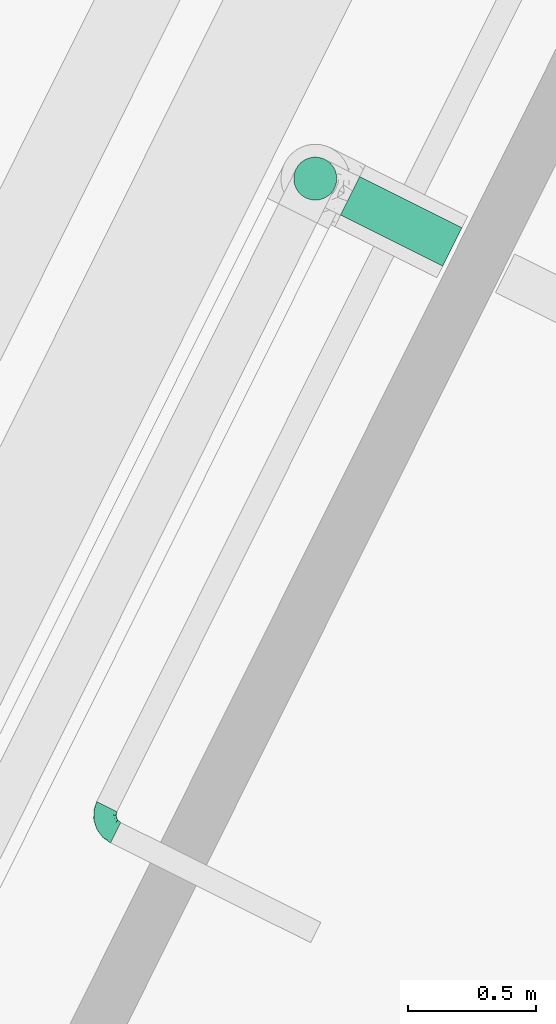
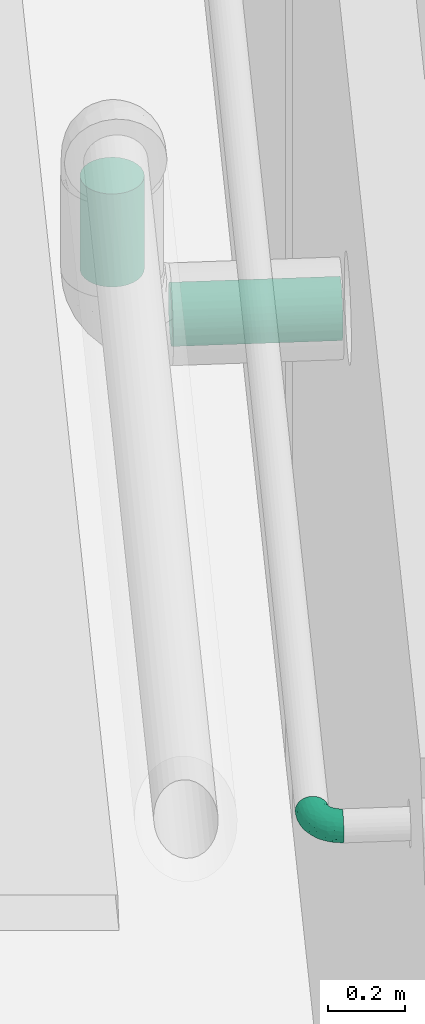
# One storey, part 78 of 91: 2 flow segments, 1 flow fitting.
"""IFC2X3 building model written with IfcOpenShell, lengths in metres."""

from ifc_helpers import new_model, entity, si_unit, converted_unit, derived_unit, direction, frame, frame_2d, origin, place, context, subcontext, project, spatial, circle, extrude, faceted_brep, source, transform, mapped, type_object, type_shapes, element, save


model = new_model("IFC2X3")

# Units and contexts
model_context = context("Model", 3, precision=1e-05, world=origin(), true_north=direction((0.894925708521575, 0.446215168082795)))
context_of_model = context(None, 3, precision=1e-05, world=origin(), true_north=direction((0.894925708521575, 0.446215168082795)))
body_context = subcontext(model_context, "Body", "Model", "MODEL_VIEW")
ifc_project = project(units=[si_unit("LENGTHUNIT", "METRE"), si_unit("AREAUNIT", "SQUARE_METRE"), si_unit("VOLUMEUNIT", "CUBIC_METRE"), converted_unit("PLANEANGLEUNIT", "DEGREE", entity("IfcRatioMeasure", 0.0174532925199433), si_unit("PLANEANGLEUNIT", "RADIAN"), dimensions=[0, 0, 0, 0, 0, 0, 0]), si_unit("MASSUNIT", "GRAM", prefix="KILO"), si_unit("TIMEUNIT", "SECOND"), si_unit("FREQUENCYUNIT", "HERTZ"), si_unit("THERMODYNAMICTEMPERATUREUNIT", "DEGREE_CELSIUS"), derived_unit("THERMALTRANSMITTANCEUNIT", [(si_unit("MASSUNIT", "GRAM", prefix="KILO"), 1), (si_unit("THERMODYNAMICTEMPERATUREUNIT", "KELVIN"), -1), (si_unit("TIMEUNIT", "SECOND"), -3)]), derived_unit("VOLUMETRICFLOWRATEUNIT", [(si_unit("LENGTHUNIT", "METRE"), 3), (si_unit("TIMEUNIT", "SECOND"), -1)]), si_unit("ELECTRICCURRENTUNIT", "AMPERE"), si_unit("ELECTRICVOLTAGEUNIT", "VOLT"), si_unit("POWERUNIT", "WATT"), si_unit("FORCEUNIT", "NEWTON", prefix="KILO"), si_unit("ILLUMINANCEUNIT", "LUX"), si_unit("LUMINOUSFLUXUNIT", "LUMEN"), si_unit("LUMINOUSINTENSITYUNIT", "CANDELA"), si_unit("PRESSUREUNIT", "PASCAL")], contexts=[model_context, context_of_model])

# Site, building, storey
site_placement = place(None, frame((218.228324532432, 584.720189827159, 0.0), z_axis=(0.0, 0.0, 1.0), x_axis=(0.446215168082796, 0.894925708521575, 0.0)))
site = spatial("IfcSite", under=ifc_project, at=site_placement, Name="Default", CompositionType="ELEMENT")
building_placement = place(site_placement, origin())
building = spatial("IfcBuilding", under=site, at=building_placement, CompositionType="ELEMENT")
storey_placement = place(building_placement, origin())
storey = spatial("IfcBuildingStorey", under=building, at=storey_placement, Name="0 - Piano Terra", CompositionType="ELEMENT", Elevation=0.0)

# Flow segments
pipe_segment_type = type_object("IfcPipeSegmentType", Name="Tubazione:Riscaldamento-Tubazione", PredefinedType="NOTDEFINED")
flow_segment_1_placement = place(storey_placement, frame((0.571569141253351, -4.98336339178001, 3.21426722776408)))
element("IfcFlowSegment", 1, at=flow_segment_1_placement, inside=storey, type_object=pipe_segment_type, Name="Tubazione:Riscaldamento-Tubazione", ObjectType="Tubazione:Riscaldamento-Tubazione", context=body_context, shape_type="SweptSolid", body=[
    extrude(circle(Radius=0.0841375, at=frame_2d((1.35358391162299e-16, 0.0), x_axis=(1.0, 0.0))), frame((0.0857327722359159, 0.0, 0.0857327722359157), z_axis=(0.0, 1.0, 0.0), x_axis=(1.0, 0.0, 0.0)), (0.0, 0.0, 1.0), 0.446146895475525),
])
flow_segment_2_placement = place(storey_placement, frame((0.571569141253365, -4.47094926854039, 3.452)))
element("IfcFlowSegment", 2, at=flow_segment_2_placement, inside=storey, type_object=pipe_segment_type, Name="Tubazione:Riscaldamento-Tubazione", ObjectType="Tubazione:Riscaldamento-Tubazione", context=body_context, shape_type="SweptSolid", body=[
    extrude(circle(Radius=0.0841375, at=frame_2d((1.35358391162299e-16, -5.41433564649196e-16), x_axis=(1.0, 0.0))), frame((0.0857327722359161, 0.0857327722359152, 0.0), z_axis=(0.0, 0.0, 1.0), x_axis=(-1.0, 0.0, 0.0)), (0.0, 0.0, 1.0), 0.295999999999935),
])

# Flow fitting
pipe_fitting_type = type_object("IfcPipeFittingType", Name="Standard", PredefinedType="NOTDEFINED")
shared_shape = source(origin(), body_context, "Body", "Brep", [
    faceted_brep([(-0.0759999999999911, 0.0222249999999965, -0.0384948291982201), (-0.0759999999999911, 0.0115045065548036, -0.0429354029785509), (-0.0759999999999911, 0.0, -0.0444500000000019), (-0.0759999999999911, -0.0115045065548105, -0.042935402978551), (-0.075999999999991, -0.0222250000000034, -0.0384948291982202), (-0.075999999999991, -0.0314308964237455, -0.031430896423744), (-0.075999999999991, -0.0384948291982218, -0.022225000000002), (-0.075999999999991, -0.0429354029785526, -0.011504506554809), (-0.075999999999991, -0.0444500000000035, 0.0), (-0.075999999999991, -0.0429354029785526, 0.011504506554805), (-0.075999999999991, -0.0384948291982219, 0.022224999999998), (-0.075999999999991, -0.0314308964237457, 0.0314308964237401), (-0.075999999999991, -0.0222250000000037, 0.0384948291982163), (-0.0759999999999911, -0.0115045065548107, 0.0429354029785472), (-0.0759999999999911, 0.0, 0.0444499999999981), (-0.0759999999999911, 0.0115045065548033, 0.0429354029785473), (-0.0759999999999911, 0.0222249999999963, 0.0384948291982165), (-0.0759999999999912, 0.0314308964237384, 0.0314308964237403), (-0.0759999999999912, 0.0384948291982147, 0.0222249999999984), (-0.0759999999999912, 0.0429354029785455, 0.0115045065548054), (-0.0759999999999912, 0.0444499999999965, 0.0), (-0.0759999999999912, 0.0429354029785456, -0.0115045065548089), (-0.0759999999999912, 0.0384948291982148, -0.0222250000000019), (-0.0759999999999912, 0.0314308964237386, -0.0314308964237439), (0.0, 0.0759999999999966, -0.0444500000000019), (-0.0115045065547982, 0.0759999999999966, -0.0429354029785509), (-0.0222249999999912, 0.0759999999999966, -0.0384948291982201), (-0.0314308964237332, 0.0759999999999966, -0.0314308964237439), (-0.0384948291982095, 0.0759999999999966, -0.0222250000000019), (-0.0429354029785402, 0.0759999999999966, -0.0115045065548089), (-0.0444499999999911, 0.0759999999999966, 0.0), (-0.0429354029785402, 0.0759999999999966, 0.0115045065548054), (-0.0384948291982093, 0.0759999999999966, 0.0222249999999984), (-0.031430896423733, 0.0759999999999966, 0.0314308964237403), (-0.0222249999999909, 0.0759999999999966, 0.0384948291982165), (-0.011504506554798, 0.0759999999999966, 0.0429354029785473), (0.0, 0.0759999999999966, 0.0444499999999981), (0.0115045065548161, 0.0759999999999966, 0.0429354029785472), (0.022225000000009, 0.0759999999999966, 0.0384948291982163), (0.031430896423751, 0.0759999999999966, 0.0314308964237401), (0.0384948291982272, 0.0759999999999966, 0.022224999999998), (0.042935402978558, 0.0759999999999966, 0.011504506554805), (0.0444500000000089, 0.0759999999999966, 0.0), (0.0429354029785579, 0.0759999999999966, -0.011504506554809), (0.0384948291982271, 0.0759999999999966, -0.022225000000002), (0.0314308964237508, 0.0759999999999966, -0.031430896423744), (0.0222250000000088, 0.0759999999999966, -0.0384948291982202), (0.0115045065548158, 0.0759999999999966, -0.042935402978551), (-0.055251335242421, -0.0350999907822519, 0.0246019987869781), (-0.0387789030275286, -0.0385547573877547, 0.0), (-0.0513960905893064, -0.0397481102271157, 0.0135506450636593), (-0.0541387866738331, -0.0409875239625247, 0.0), (0.0164280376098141, 0.018681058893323, 0.0300447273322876), (0.0133440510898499, 0.00595972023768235, 0.0238254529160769), (0.0227502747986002, 0.0181678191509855, 0.0223222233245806), (-0.0566160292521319, 0.00529376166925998, 0.0443688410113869), (-0.0518504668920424, 0.0178853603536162, 0.0424858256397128), (-0.0658426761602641, 0.0162370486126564, 0.0417044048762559), (0.00670599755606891, 0.0058076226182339, 0.0303487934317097), (0.00217280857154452, -0.00488037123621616, 0.0253915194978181), (0.0217662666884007, 0.0334721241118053, 0.0322256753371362), (0.0133779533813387, 0.0277507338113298, 0.0363591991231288), (-0.0489098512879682, -0.0265635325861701, 0.0327252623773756), (-0.0551815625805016, -0.0175181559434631, 0.0397928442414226), (-0.0321967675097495, -0.0350744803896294, 0.0096061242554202), (-0.0219900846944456, -0.0300004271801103, 0.0), (-0.0380359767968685, 0.0129504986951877, 0.0443849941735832), (-0.0499161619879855, 0.0304962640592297, 0.0376985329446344), (-0.0641975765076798, 0.0266916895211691, 0.0365481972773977), (-0.0267918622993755, 0.0407735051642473, 0.0416664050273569), (-0.0178853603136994, 0.0518504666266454, 0.0424858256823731), (-0.0304962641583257, 0.0499161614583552, 0.0376985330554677), (-0.0162370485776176, 0.0658426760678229, 0.0417044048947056), (-0.00529376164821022, 0.0566160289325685, 0.0443688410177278), (-0.060002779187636, 0.0363683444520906, 0.0294868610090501), (-0.0571942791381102, -0.00652591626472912, 0.0436019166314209), (-0.0131742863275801, -0.0091104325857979, 0.0329931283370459), (-0.0104548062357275, -0.0146502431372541, 0.0262592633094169), (-0.0363683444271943, 0.060002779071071, 0.0294868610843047), (-0.0266916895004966, 0.0641975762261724, 0.036548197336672), (-0.0591167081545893, 0.0427163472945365, 0.0219026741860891), (-0.0130572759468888, 0.0374829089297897, 0.0443951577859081), (-0.0283996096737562, 0.02839960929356, 0.0435936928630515), (-0.0206947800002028, 0.0157137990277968, 0.0440684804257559), (-0.0622162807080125, 0.0455810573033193, 0.0126773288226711), (-0.0512634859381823, 0.0512634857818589, 0.0171284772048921), (-0.0440264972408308, 0.0440264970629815, 0.032066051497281), (-0.0427163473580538, 0.0591167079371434, 0.0219026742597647), (-0.0484175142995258, 0.0479614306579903, 0.0251239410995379), (0.0175181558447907, 0.0551815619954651, 0.0397928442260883), (0.0265635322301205, 0.0489098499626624, 0.0327252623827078), (-0.0531667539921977, 0.0531667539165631, 0.00808290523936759), (0.0397481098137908, 0.0513960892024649, 0.0135506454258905), (0.0350999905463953, 0.0552513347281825, 0.0246019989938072), (0.0300990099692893, 0.0319822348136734, 0.0215664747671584), (0.00652591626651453, 0.0571942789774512, 0.0436019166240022), (-0.0360375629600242, -0.00228367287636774, 0.0428291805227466), (0.0409875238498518, 0.0541387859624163, 0.0), (-0.00769711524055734, 0.023069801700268, 0.0432135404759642), (-0.0161281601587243, 0.00441100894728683, 0.0409345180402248), (-0.000438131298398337, 0.0181073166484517, 0.0400941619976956), (0.0300004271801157, 0.0219900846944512, 0.0), (0.0350744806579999, 0.0321967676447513, 0.00960612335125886), (0.0263186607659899, 0.0155052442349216, 0.0117666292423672), (-0.0291179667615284, -0.0225220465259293, 0.0296592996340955), (-0.0277507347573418, -0.0133779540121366, 0.0363591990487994), (-0.0602249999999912, 0.0486768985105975, 0.0), (-0.0486768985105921, 0.0602249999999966, 0.0), (-0.0455810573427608, 0.0622162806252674, 0.0126773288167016), (-0.0407466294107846, 0.0268307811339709, 0.0416604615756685), (-0.0377601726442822, 0.0377601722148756, 0.0386689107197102), (-0.00520126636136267, -0.0214460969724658, 0.0), (-0.0155052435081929, -0.0263186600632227, 0.0117666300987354), (-0.0319822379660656, -0.0300990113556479, 0.0215664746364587), (0.00228367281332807, 0.0360375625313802, 0.0428291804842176), (0.0214460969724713, 0.00520126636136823, 0.0), (0.0160594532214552, -0.000115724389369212, 0.00937076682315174), (0.00329314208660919, -0.0118779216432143, 0.0134585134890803), (0.0186652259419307, 0.00689538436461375, 0.0166724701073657), (0.0385547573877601, 0.0387789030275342, 0.0), (-0.00882562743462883, -0.0191172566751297, 0.0184368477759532), (0.00812241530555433, -0.00812241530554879, 0.0), (-0.00308956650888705, 0.00308956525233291, 0.0352249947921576), (0.00665750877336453, 0.014449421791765, 0.0352664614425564), (-0.0663119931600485, 0.0352211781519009, -0.0285295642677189), (0.0356416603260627, 0.063567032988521, -0.0256086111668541), (-0.0597195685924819, 0.00503106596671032, -0.0443355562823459), (-0.0428757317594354, 0.0435409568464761, -0.0331401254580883), (-0.0472933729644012, 0.0477547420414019, -0.0264450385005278), (-0.0380854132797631, 0.0547099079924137, -0.0303060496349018), (-0.0408534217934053, 0.00868227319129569, -0.0444499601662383), (-0.0550040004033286, 0.0172386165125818, -0.0423182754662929), (-0.0619986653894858, 0.0454344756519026, -0.0134059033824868), (-0.0424796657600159, 0.058945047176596, -0.0224049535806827), (-0.0530961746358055, 0.0530961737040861, -0.008605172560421), (-0.005031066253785, 0.0597195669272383, -0.0443355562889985), (-0.0172386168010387, 0.0550039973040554, -0.0423182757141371), (-0.0453499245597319, 0.0261375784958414, -0.0408727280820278), (-0.0597445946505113, 0.0272482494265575, -0.0370157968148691), (-0.0484821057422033, 0.0337753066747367, -0.0363378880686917), (-0.0108421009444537, 0.0108420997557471, -0.0414134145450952), (0.00292359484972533, 0.0313950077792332, -0.0419642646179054), (0.00576470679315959, 0.015577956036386, -0.036290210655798), (-0.0239048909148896, 0.00889487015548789, -0.0435390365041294), (-0.0280822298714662, 0.0165780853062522, -0.0444487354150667), (-0.0155353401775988, 0.0222215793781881, -0.0441768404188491), (-0.0548671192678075, -0.0402641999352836, -0.0140556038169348), (-0.0635670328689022, -0.035641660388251, -0.0256086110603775), (-0.0468237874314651, -0.0338951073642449, -0.0235445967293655), (-0.0542773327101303, -0.0272310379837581, -0.0332571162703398), (-0.0295224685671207, -0.0279582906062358, -0.0232657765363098), (0.0206432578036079, 0.026645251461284, -0.0303065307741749), (0.0272310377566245, 0.0542773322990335, -0.0332571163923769), (0.0338951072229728, 0.0468237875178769, -0.0235445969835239), (-0.063773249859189, -0.0178670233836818, -0.0403436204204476), (-0.0454344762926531, 0.0619986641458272, -0.0134059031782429), (-0.0509858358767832, 0.0509858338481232, -0.018040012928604), (-0.0266452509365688, -0.0206432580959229, -0.0303065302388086), (0.0402641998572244, 0.0548671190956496, -0.0140556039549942), (0.033135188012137, 0.0290265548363, -0.0119449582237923), (-0.0471571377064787, -0.0164855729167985, -0.0392413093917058), (-0.0554032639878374, -0.00637620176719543, -0.0435474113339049), (-0.031395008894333, -0.00292359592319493, -0.0419642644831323), (-0.0589796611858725, 0.0424071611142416, -0.0224886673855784), (-0.0283863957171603, -0.0127648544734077, -0.0369364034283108), (-0.0110970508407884, -0.00438905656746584, -0.0350639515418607), (-0.0353996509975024, -0.0349521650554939, -0.0141213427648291), (-0.0539297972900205, 0.0384008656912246, -0.0304288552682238), (-0.0272482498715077, 0.0597445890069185, -0.0370157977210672), (0.0063762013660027, 0.0554032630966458, -0.0435474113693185), (0.0178670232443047, 0.0637732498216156, -0.0403436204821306), (-0.0130026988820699, -0.0185218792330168, -0.0237207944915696), (0.00307688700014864, -0.0126882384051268, -0.0119183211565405), (-0.0178636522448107, -0.0261829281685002, -0.0157567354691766), (0.01648557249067, 0.0471571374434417, -0.0392413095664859), (-0.0351708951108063, 0.0668051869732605, -0.0284550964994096), (-0.0143062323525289, -0.0267882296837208, -0.00708720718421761), (-0.0367961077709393, 0.036796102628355, -0.0394106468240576), (-0.0263944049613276, 0.0276845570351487, -0.0439339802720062), (0.0115291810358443, 0.0308300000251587, -0.0383364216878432), (0.0277415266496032, 0.0267890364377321, -0.0216489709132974), (-0.00868227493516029, 0.040853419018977, -0.0444499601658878), (-0.0263216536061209, 0.0459443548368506, -0.0406700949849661), (-0.0192830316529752, 0.0407360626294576, -0.0434845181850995), (-0.0337233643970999, 0.049471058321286, -0.0359883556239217), (-0.0405538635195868, 0.018597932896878, -0.0436227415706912), (0.00798111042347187, 0.00716693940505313, -0.0302321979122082), (0.0176308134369, 0.0122534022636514, -0.0242211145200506), (0.00408183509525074, -0.00408183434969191, -0.0242493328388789), (0.0197800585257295, 0.00739832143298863, -0.0150810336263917)], [[[0, 1, 2, 3, 4, 5, 6, 7, 8, 9, 10, 11, 12, 13, 14, 15, 16, 17, 18, 19, 20, 21, 22, 23]], [[24, 25, 26, 27, 28, 29, 30, 31, 32, 33, 34, 35, 36, 37, 38, 39, 40, 41, 42, 43, 44, 45, 46, 47]], [[10, 48, 11]], [[49, 50, 51]], [[52, 53, 54]], [[9, 50, 10]], [[9, 51, 50]], [[55, 56, 57]], [[48, 10, 50]], [[58, 59, 53]], [[60, 61, 52]], [[62, 12, 11]], [[62, 63, 12]], [[64, 49, 65]], [[56, 55, 66]], [[56, 67, 68]], [[69, 70, 71]], [[16, 15, 57]], [[35, 72, 73]], [[74, 18, 17]], [[75, 14, 13]], [[76, 77, 59]], [[78, 71, 79]], [[74, 80, 18]], [[81, 82, 83]], [[20, 19, 84]], [[85, 84, 80]], [[70, 81, 73]], [[86, 74, 67]], [[87, 88, 78]], [[38, 89, 90]], [[85, 91, 84]], [[92, 93, 94]], [[17, 16, 68]], [[93, 40, 39]], [[36, 95, 37]], [[96, 66, 55]], [[36, 35, 73]], [[90, 39, 38]], [[92, 97, 41]], [[98, 99, 100]], [[93, 92, 40]], [[31, 87, 32]], [[92, 41, 40]], [[71, 78, 86]], [[101, 102, 103]], [[104, 105, 62]], [[106, 91, 107]], [[96, 63, 105]], [[107, 108, 30]], [[109, 69, 110]], [[107, 91, 108]], [[111, 112, 65]], [[32, 78, 33]], [[89, 38, 37]], [[31, 108, 87]], [[89, 61, 60]], [[79, 34, 33]], [[72, 35, 34]], [[12, 63, 13]], [[113, 62, 48]], [[103, 102, 94]], [[80, 88, 85]], [[15, 14, 55]], [[70, 69, 81]], [[95, 73, 114]], [[75, 55, 14]], [[96, 83, 66]], [[105, 63, 62]], [[75, 63, 96]], [[104, 62, 113]], [[105, 76, 99]], [[95, 89, 37]], [[61, 89, 114]], [[100, 61, 114]], [[58, 53, 52]], [[86, 67, 110]], [[70, 72, 79]], [[74, 17, 68]], [[109, 82, 69]], [[113, 48, 50]], [[62, 11, 48]], [[39, 90, 93]], [[94, 93, 90]], [[64, 113, 50]], [[115, 103, 116]], [[53, 59, 117]], [[53, 118, 54]], [[73, 95, 36]], [[89, 95, 114]], [[63, 75, 13]], [[55, 75, 96]], [[106, 20, 84]], [[108, 91, 85]], [[106, 84, 91]], [[80, 19, 18]], [[80, 84, 19]], [[88, 74, 86]], [[108, 85, 87]], [[108, 31, 30]], [[87, 85, 88]], [[32, 87, 78]], [[82, 109, 66]], [[114, 73, 81]], [[99, 83, 96]], [[81, 83, 98]], [[9, 8, 51]], [[97, 92, 119]], [[97, 42, 41]], [[82, 66, 83]], [[120, 113, 112]], [[117, 121, 116]], [[74, 88, 80]], [[88, 86, 78]], [[65, 112, 64]], [[111, 117, 112]], [[120, 112, 117]], [[101, 103, 115]], [[92, 102, 119]], [[118, 117, 116]], [[113, 64, 112]], [[49, 64, 50]], [[119, 102, 101]], [[94, 102, 92]], [[105, 99, 96]], [[100, 99, 122]], [[100, 122, 123]], [[98, 100, 114]], [[78, 79, 33]], [[70, 79, 71]], [[68, 16, 57]], [[74, 68, 67]], [[81, 98, 114]], [[99, 98, 83]], [[118, 116, 103]], [[54, 103, 94]], [[121, 117, 111]], [[121, 115, 116]], [[117, 118, 53]], [[103, 54, 118]], [[90, 60, 94]], [[54, 94, 60]], [[58, 123, 122]], [[123, 52, 61]], [[76, 59, 58]], [[76, 58, 122]], [[59, 77, 120]], [[52, 123, 58]], [[100, 123, 61]], [[60, 52, 54]], [[89, 60, 90]], [[79, 72, 34]], [[73, 72, 70]], [[55, 57, 15]], [[68, 57, 56]], [[113, 77, 104]], [[76, 104, 77]], [[110, 69, 71]], [[81, 69, 82]], [[86, 110, 71]], [[110, 67, 109]], [[67, 56, 109]], [[66, 109, 56]], [[99, 76, 122]], [[104, 76, 105]], [[59, 120, 117]], [[113, 120, 77]], [[22, 124, 23]], [[45, 44, 125]], [[1, 126, 2]], [[127, 128, 129]], [[130, 126, 131]], [[131, 1, 0]], [[106, 132, 20]], [[129, 128, 133]], [[132, 106, 134]], [[25, 135, 136]], [[137, 138, 139]], [[140, 141, 142]], [[143, 144, 145]], [[138, 131, 0]], [[146, 6, 147]], [[148, 149, 150]], [[146, 51, 7]], [[151, 152, 153]], [[149, 5, 4]], [[0, 23, 138]], [[154, 149, 4]], [[155, 133, 156]], [[6, 146, 7]], [[147, 6, 5]], [[150, 149, 157]], [[154, 4, 3]], [[158, 44, 43]], [[153, 158, 159]], [[106, 107, 134]], [[125, 152, 45]], [[30, 29, 155]], [[160, 161, 162]], [[132, 163, 21]], [[164, 162, 165]], [[146, 148, 166]], [[128, 127, 167]], [[168, 27, 26]], [[46, 45, 152]], [[169, 47, 170]], [[171, 172, 173]], [[152, 174, 170]], [[24, 135, 25]], [[28, 27, 175]], [[47, 46, 170]], [[176, 172, 111]], [[137, 177, 178]], [[142, 141, 179]], [[153, 159, 180]], [[141, 181, 169]], [[161, 160, 154]], [[153, 125, 158]], [[47, 169, 24]], [[158, 97, 119]], [[26, 136, 168]], [[161, 3, 2]], [[151, 174, 152]], [[156, 163, 132]], [[25, 136, 26]], [[182, 183, 178]], [[134, 155, 156]], [[127, 129, 184]], [[131, 137, 185]], [[141, 169, 174]], [[135, 169, 181]], [[179, 151, 142]], [[141, 140, 145]], [[158, 43, 97]], [[159, 158, 119]], [[115, 159, 119, 101]], [[157, 149, 160]], [[147, 149, 148]], [[126, 161, 2]], [[145, 140, 143]], [[130, 162, 161]], [[162, 140, 165]], [[150, 171, 173]], [[65, 176, 111]], [[142, 165, 140]], [[153, 180, 151]], [[148, 150, 166]], [[43, 42, 97]], [[107, 30, 155]], [[132, 134, 156]], [[124, 138, 23]], [[167, 127, 139]], [[184, 182, 177]], [[175, 168, 129]], [[186, 151, 187]], [[188, 171, 165]], [[165, 142, 186]], [[165, 157, 164]], [[107, 155, 134]], [[133, 29, 28]], [[29, 133, 155]], [[175, 133, 28]], [[128, 163, 156]], [[132, 21, 20]], [[124, 163, 167]], [[21, 163, 22]], [[163, 128, 167]], [[156, 133, 128]], [[51, 146, 49]], [[51, 8, 7]], [[184, 129, 168]], [[167, 139, 138]], [[127, 177, 139]], [[137, 139, 177]], [[178, 177, 182]], [[138, 137, 131]], [[145, 178, 181]], [[131, 185, 130]], [[137, 178, 185]], [[144, 185, 178]], [[182, 168, 136]], [[177, 127, 184]], [[168, 182, 184]], [[182, 136, 183]], [[136, 181, 183]], [[181, 178, 183]], [[131, 126, 1]], [[161, 126, 130]], [[169, 135, 24]], [[136, 135, 181]], [[176, 166, 173]], [[49, 146, 166]], [[189, 172, 188]], [[49, 166, 65]], [[189, 121, 172]], [[180, 187, 151]], [[189, 159, 115]], [[141, 145, 181]], [[140, 162, 143]], [[166, 176, 65]], [[172, 176, 173]], [[162, 130, 143]], [[144, 143, 130]], [[185, 144, 130]], [[178, 145, 144]], [[163, 124, 22]], [[138, 124, 167]], [[152, 170, 46]], [[169, 170, 174]], [[158, 125, 44]], [[152, 125, 153]], [[161, 154, 3]], [[149, 154, 160]], [[149, 147, 5]], [[146, 147, 148]], [[168, 175, 27]], [[133, 175, 129]], [[159, 189, 180]], [[187, 180, 189]], [[189, 188, 187]], [[186, 187, 188]], [[165, 186, 188]], [[151, 186, 142]], [[171, 150, 157]], [[166, 150, 173]], [[165, 171, 157]], [[172, 171, 188]], [[141, 174, 179]], [[151, 179, 174]], [[157, 160, 164]], [[162, 164, 160]], [[121, 189, 115]], [[121, 111, 172]]]),
])
type_shapes(pipe_fitting_type, [shared_shape])
flow_fitting_placement = place(storey_placement, frame((-1.97683558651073, -4.75107899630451, 3.5), z_axis=(0.0, 0.0, 1.0), x_axis=(-1.0, 0.0, 0.0)))
element("IfcFlowFitting", 3, at=flow_fitting_placement, inside=storey, type_object=pipe_fitting_type, Name="M_Gomito - Saldato - Generico:Standard", ObjectType="Standard", context=body_context, shape_type="MappedRepresentation", body=[
    mapped(shared_shape, transform((0.0, 0.0, 0.0), scale=1.0)),
])

save(model, "model.ifc")
